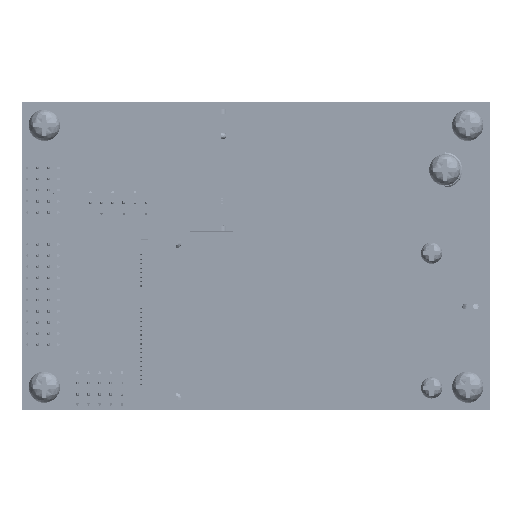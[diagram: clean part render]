
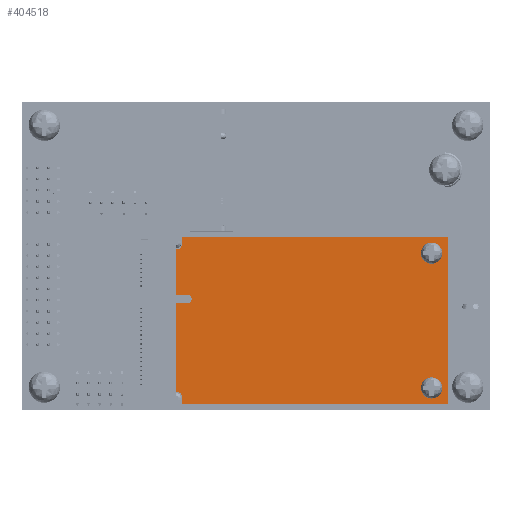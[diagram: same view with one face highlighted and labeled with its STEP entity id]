
A CAD part, top view. The second image highlights one B-rep face of the part: STEP entity #404518.
In plain terms, the highlighted planar face has unit normal (0, 0, 1) as drawn and (0, -1, 0) by its records, which use the part's own axes.
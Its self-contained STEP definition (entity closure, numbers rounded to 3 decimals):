
#404169=CARTESIAN_POINT('',(-12.1,0.,-22.911));
#404170=DIRECTION('',(0.,-1.,0.));
#404171=DIRECTION('',(1.,0.,0.));
#404172=AXIS2_PLACEMENT_3D('',#404169,#404170,#404171);
#404174=CARTESIAN_POINT('',(-12.1,0.,-22.911));
#404175=DIRECTION('',(0.,-1.,0.));
#404176=DIRECTION('',(-1.,0.,0.));
#404177=AXIS2_PLACEMENT_3D('',#404174,#404175,#404176);
#404179=CARTESIAN_POINT('',(12.1,0.,-22.911));
#404180=DIRECTION('',(0.,-1.,0.));
#404181=DIRECTION('',(1.,0.,0.));
#404182=AXIS2_PLACEMENT_3D('',#404179,#404180,#404181);
#404184=CARTESIAN_POINT('',(12.1,0.,-22.911));
#404185=DIRECTION('',(0.,-1.,0.));
#404186=DIRECTION('',(-1.,0.,0.));
#404187=AXIS2_PLACEMENT_3D('',#404184,#404185,#404186);
#404189=DIRECTION('',(0.,0.,-1.));
#404190=VECTOR('',#404189,4.239);
#404191=CARTESIAN_POINT('',(4.6,0.,25.139));
#404192=LINE('',#404191,#404190);
#404193=DIRECTION('',(1.,0.,0.));
#404194=VECTOR('',#404193,8.25);
#404195=CARTESIAN_POINT('',(4.6,0.,25.139));
#404196=LINE('',#404195,#404194);
#404197=DIRECTION('',(0.,0.,-1.));
#404198=VECTOR('',#404197,2.5);
#404199=CARTESIAN_POINT('',(12.85,0.,25.139));
#404200=LINE('',#404199,#404198);
#404201=DIRECTION('',(1.,0.,0.));
#404202=VECTOR('',#404201,1.45);
#404203=CARTESIAN_POINT('',(13.55,0.,21.939));
#404204=LINE('',#404203,#404202);
#404205=DIRECTION('',(0.,0.,-1.));
#404206=VECTOR('',#404205,47.75);
#404207=CARTESIAN_POINT('',(15.,0.,21.939));
#404208=LINE('',#404207,#404206);
#404209=DIRECTION('',(-1.,0.,0.));
#404210=VECTOR('',#404209,30.);
#404211=CARTESIAN_POINT('',(15.,0.,-25.811));
#404212=LINE('',#404211,#404210);
#404213=DIRECTION('',(0.,0.,1.));
#404214=VECTOR('',#404213,47.75);
#404215=CARTESIAN_POINT('',(-15.,0.,-25.811));
#404216=LINE('',#404215,#404214);
#404217=DIRECTION('',(1.,0.,0.));
#404218=VECTOR('',#404217,1.45);
#404219=CARTESIAN_POINT('',(-15.,0.,21.939));
#404220=LINE('',#404219,#404218);
#404221=DIRECTION('',(0.,0.,1.));
#404222=VECTOR('',#404221,2.5);
#404223=CARTESIAN_POINT('',(-12.85,0.,22.639));
#404224=LINE('',#404223,#404222);
#404225=DIRECTION('',(1.,0.,0.));
#404226=VECTOR('',#404225,15.95);
#404227=CARTESIAN_POINT('',(-12.85,0.,25.139));
#404228=LINE('',#404227,#404226);
#404229=DIRECTION('',(0.,0.,1.));
#404230=VECTOR('',#404229,4.239);
#404231=CARTESIAN_POINT('',(3.1,0.,20.9));
#404232=LINE('',#404231,#404230);
#404233=CARTESIAN_POINT('',(3.85,0.,20.9));
#404234=DIRECTION('',(0.,1.,0.));
#404235=DIRECTION('',(1.,0.,0.));
#404236=AXIS2_PLACEMENT_3D('',#404233,#404234,#404235);
#404351=CARTESIAN_POINT('',(13.55,0.,22.639));
#404352=DIRECTION('',(0.,1.,0.));
#404353=DIRECTION('',(0.,0.,-1.));
#404354=AXIS2_PLACEMENT_3D('',#404351,#404352,#404353);
#404385=CARTESIAN_POINT('',(-13.55,0.,22.639));
#404386=DIRECTION('',(0.,1.,0.));
#404387=DIRECTION('',(1.,0.,0.));
#404388=AXIS2_PLACEMENT_3D('',#404385,#404386,#404387);
#404399=CARTESIAN_POINT('',(-15.,0.,-25.811));
#404400=CARTESIAN_POINT('',(-15.,0.,21.939));
#404401=VERTEX_POINT('',#404399);
#404402=VERTEX_POINT('',#404400);
#404403=CARTESIAN_POINT('',(15.,0.,21.939));
#404404=CARTESIAN_POINT('',(15.,0.,-25.811));
#404405=VERTEX_POINT('',#404403);
#404406=VERTEX_POINT('',#404404);
#404415=CARTESIAN_POINT('',(-10.8,0.,-22.911));
#404416=CARTESIAN_POINT('',(-13.4,0.,-22.911));
#404417=VERTEX_POINT('',#404415);
#404418=VERTEX_POINT('',#404416);
#404423=CARTESIAN_POINT('',(13.4,0.,-22.911));
#404424=CARTESIAN_POINT('',(10.8,0.,-22.911));
#404425=VERTEX_POINT('',#404423);
#404426=VERTEX_POINT('',#404424);
#404431=CARTESIAN_POINT('',(-12.85,0.,25.139));
#404433=VERTEX_POINT('',#404431);
#404435=CARTESIAN_POINT('',(12.85,0.,25.139));
#404437=VERTEX_POINT('',#404435);
#404439=CARTESIAN_POINT('',(13.55,0.,21.939));
#404441=VERTEX_POINT('',#404439);
#404443=CARTESIAN_POINT('',(12.85,0.,22.639));
#404445=VERTEX_POINT('',#404443);
#404447=CARTESIAN_POINT('',(-12.85,0.,22.639));
#404449=VERTEX_POINT('',#404447);
#404451=CARTESIAN_POINT('',(-13.55,0.,21.939));
#404453=VERTEX_POINT('',#404451);
#404455=CARTESIAN_POINT('',(4.6,0.,25.139));
#404456=CARTESIAN_POINT('',(4.6,0.,20.9));
#404457=VERTEX_POINT('',#404455);
#404458=VERTEX_POINT('',#404456);
#404459=CARTESIAN_POINT('',(3.1,0.,20.9));
#404460=VERTEX_POINT('',#404459);
#404461=CARTESIAN_POINT('',(3.1,0.,25.139));
#404462=VERTEX_POINT('',#404461);
#404471=CARTESIAN_POINT('',(0.,0.,0.));
#404472=DIRECTION('',(0.,1.,0.));
#404473=DIRECTION('',(1.,0.,0.));
#404474=AXIS2_PLACEMENT_3D('',#404471,#404472,#404473);
#404475=PLANE('',#404474);
#404477=ORIENTED_EDGE('',*,*,#404476,.F.);
#404479=ORIENTED_EDGE('',*,*,#404478,.T.);
#404481=ORIENTED_EDGE('',*,*,#404480,.T.);
#404483=ORIENTED_EDGE('',*,*,#404482,.F.);
#404485=ORIENTED_EDGE('',*,*,#404484,.T.);
#404487=ORIENTED_EDGE('',*,*,#404486,.T.);
#404489=ORIENTED_EDGE('',*,*,#404488,.T.);
#404491=ORIENTED_EDGE('',*,*,#404490,.T.);
#404493=ORIENTED_EDGE('',*,*,#404492,.T.);
#404495=ORIENTED_EDGE('',*,*,#404494,.F.);
#404497=ORIENTED_EDGE('',*,*,#404496,.T.);
#404499=ORIENTED_EDGE('',*,*,#404498,.T.);
#404501=ORIENTED_EDGE('',*,*,#404500,.F.);
#404503=ORIENTED_EDGE('',*,*,#404502,.F.);
#404504=EDGE_LOOP('',(#404477,#404479,#404481,#404483,#404485,#404487,#404489,
#404491,#404493,#404495,#404497,#404499,#404501,#404503));
#404505=FACE_OUTER_BOUND('',#404504,.F.);
#404507=ORIENTED_EDGE('',*,*,#404506,.T.);
#404509=ORIENTED_EDGE('',*,*,#404508,.T.);
#404510=EDGE_LOOP('',(#404507,#404509));
#404511=FACE_BOUND('',#404510,.F.);
#404513=ORIENTED_EDGE('',*,*,#404512,.T.);
#404515=ORIENTED_EDGE('',*,*,#404514,.T.);
#404516=EDGE_LOOP('',(#404513,#404515));
#404517=FACE_BOUND('',#404516,.F.);
#404518=ADVANCED_FACE('',(#404505,#404511,#404517),#404475,.F.);
#404173=CIRCLE('',#404172,1.3);
#404178=CIRCLE('',#404177,1.3);
#404183=CIRCLE('',#404182,1.3);
#404188=CIRCLE('',#404187,1.3);
#404237=CIRCLE('',#404236,0.75);
#404355=CIRCLE('',#404354,0.7);
#404389=CIRCLE('',#404388,0.7);
#404476=EDGE_CURVE('',#404457,#404458,#404192,.T.);
#404478=EDGE_CURVE('',#404457,#404437,#404196,.T.);
#404480=EDGE_CURVE('',#404437,#404445,#404200,.T.);
#404482=EDGE_CURVE('',#404441,#404445,#404355,.T.);
#404484=EDGE_CURVE('',#404441,#404405,#404204,.T.);
#404486=EDGE_CURVE('',#404405,#404406,#404208,.T.);
#404488=EDGE_CURVE('',#404406,#404401,#404212,.T.);
#404490=EDGE_CURVE('',#404401,#404402,#404216,.T.);
#404492=EDGE_CURVE('',#404402,#404453,#404220,.T.);
#404494=EDGE_CURVE('',#404449,#404453,#404389,.T.);
#404496=EDGE_CURVE('',#404449,#404433,#404224,.T.);
#404498=EDGE_CURVE('',#404433,#404462,#404228,.T.);
#404500=EDGE_CURVE('',#404460,#404462,#404232,.T.);
#404502=EDGE_CURVE('',#404458,#404460,#404237,.T.);
#404506=EDGE_CURVE('',#404425,#404426,#404183,.T.);
#404508=EDGE_CURVE('',#404426,#404425,#404188,.T.);
#404512=EDGE_CURVE('',#404417,#404418,#404173,.T.);
#404514=EDGE_CURVE('',#404418,#404417,#404178,.T.);
